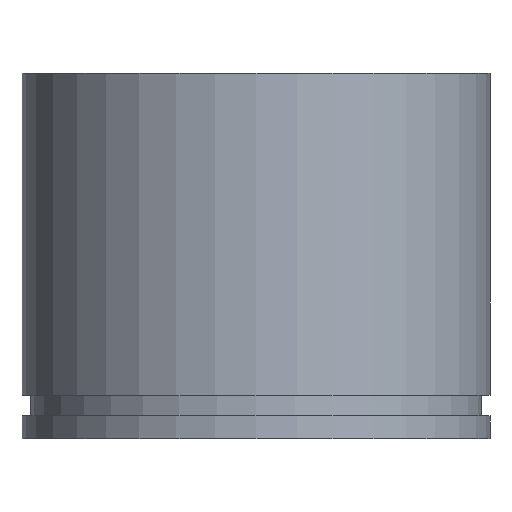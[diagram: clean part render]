
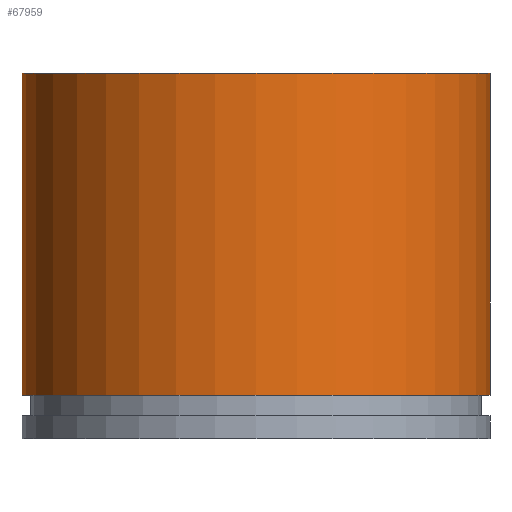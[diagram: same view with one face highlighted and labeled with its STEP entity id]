
A CAD part, front view. The second image highlights one B-rep face of the part: STEP entity #67959.
In plain terms, the highlighted cylindrical face has radius 41 mm (diameter 82 mm), a full revolution.
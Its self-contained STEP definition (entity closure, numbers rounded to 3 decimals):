
#15242 = PLANE('',#15243);
#15243 = AXIS2_PLACEMENT_3D('',#15244,#15245,#15246);
#15244 = CARTESIAN_POINT('',(0.,0.,
    1907.6));
#15245 = DIRECTION('',(0.,0.,1.));
#15246 = DIRECTION('',(1.,0.,-0.));
#36889 = EDGE_CURVE('',#36890,#36890,#36892,.T.);
#36890 = VERTEX_POINT('',#36891);
#36891 = CARTESIAN_POINT('',(41.,0.,1907.6));
#36892 = SURFACE_CURVE('',#36893,(#36898,#36909),.PCURVE_S1.);
#36893 = CIRCLE('',#36894,41.);
#36894 = AXIS2_PLACEMENT_3D('',#36895,#36896,#36897);
#36895 = CARTESIAN_POINT('',(0.,0.,1907.6));
#36896 = DIRECTION('',(0.,0.,-1.));
#36897 = DIRECTION('',(1.,0.,0.));
#36898 = PCURVE('',#15242,#36899);
#36899 = DEFINITIONAL_REPRESENTATION('',(#36900),#36908);
#36900 = ( BOUNDED_CURVE() B_SPLINE_CURVE(2,(#36901,#36902,#36903,#36904
    ,#36905,#36906,#36907),.UNSPECIFIED.,.T.,.F.) 
B_SPLINE_CURVE_WITH_KNOTS((1,2,2,2,2,1),(-2.094,0.,
    2.094,4.189,6.283,8.378),
.UNSPECIFIED.) CURVE() GEOMETRIC_REPRESENTATION_ITEM() 
RATIONAL_B_SPLINE_CURVE((1.,0.5,1.,0.5,1.,0.5,1.)) REPRESENTATION_ITEM(
  '') );
#36901 = CARTESIAN_POINT('',(41.,0.));
#36902 = CARTESIAN_POINT('',(41.,-71.014));
#36903 = CARTESIAN_POINT('',(-20.5,-35.507));
#36904 = CARTESIAN_POINT('',(-82.,0.));
#36905 = CARTESIAN_POINT('',(-20.5,35.507));
#36906 = CARTESIAN_POINT('',(41.,71.014));
#36907 = CARTESIAN_POINT('',(41.,0.));
#36908 = ( GEOMETRIC_REPRESENTATION_CONTEXT(2) 
PARAMETRIC_REPRESENTATION_CONTEXT() REPRESENTATION_CONTEXT('2D SPACE',''
  ) );
#36909 = PCURVE('',#36910,#36915);
#36910 = CYLINDRICAL_SURFACE('',#36911,41.);
#36911 = AXIS2_PLACEMENT_3D('',#36912,#36913,#36914);
#36912 = CARTESIAN_POINT('',(0.,0.,1900.));
#36913 = DIRECTION('',(-0.,-0.,-1.));
#36914 = DIRECTION('',(1.,0.,0.));
#36915 = DEFINITIONAL_REPRESENTATION('',(#36916),#36920);
#36916 = LINE('',#36917,#36918);
#36917 = CARTESIAN_POINT('',(-6.283,-7.6));
#36918 = VECTOR('',#36919,1.);
#36919 = DIRECTION('',(1.,-0.));
#36920 = ( GEOMETRIC_REPRESENTATION_CONTEXT(2) 
PARAMETRIC_REPRESENTATION_CONTEXT() REPRESENTATION_CONTEXT('2D SPACE',''
  ) );
#67959 = ADVANCED_FACE('',(#67960),#36910,.T.);
#67960 = FACE_BOUND('',#67961,.F.);
#67961 = EDGE_LOOP('',(#67962,#67963,#67986,#68013));
#67962 = ORIENTED_EDGE('',*,*,#36889,.T.);
#67963 = ORIENTED_EDGE('',*,*,#67964,.T.);
#67964 = EDGE_CURVE('',#36890,#67965,#67967,.T.);
#67965 = VERTEX_POINT('',#67966);
#67966 = CARTESIAN_POINT('',(41.,0.,1964.));
#67967 = SEAM_CURVE('',#67968,(#67972,#67979),.PCURVE_S1.);
#67968 = LINE('',#67969,#67970);
#67969 = CARTESIAN_POINT('',(41.,0.,1900.));
#67970 = VECTOR('',#67971,1.);
#67971 = DIRECTION('',(0.,0.,1.));
#67972 = PCURVE('',#36910,#67973);
#67973 = DEFINITIONAL_REPRESENTATION('',(#67974),#67978);
#67974 = LINE('',#67975,#67976);
#67975 = CARTESIAN_POINT('',(-6.283,0.));
#67976 = VECTOR('',#67977,1.);
#67977 = DIRECTION('',(-0.,-1.));
#67978 = ( GEOMETRIC_REPRESENTATION_CONTEXT(2) 
PARAMETRIC_REPRESENTATION_CONTEXT() REPRESENTATION_CONTEXT('2D SPACE',''
  ) );
#67979 = PCURVE('',#36910,#67980);
#67980 = DEFINITIONAL_REPRESENTATION('',(#67981),#67985);
#67981 = LINE('',#67982,#67983);
#67982 = CARTESIAN_POINT('',(-0.,0.));
#67983 = VECTOR('',#67984,1.);
#67984 = DIRECTION('',(-0.,-1.));
#67985 = ( GEOMETRIC_REPRESENTATION_CONTEXT(2) 
PARAMETRIC_REPRESENTATION_CONTEXT() REPRESENTATION_CONTEXT('2D SPACE',''
  ) );
#67986 = ORIENTED_EDGE('',*,*,#67987,.T.);
#67987 = EDGE_CURVE('',#67965,#67965,#67988,.T.);
#67988 = SURFACE_CURVE('',#67989,(#67994,#68001),.PCURVE_S1.);
#67989 = CIRCLE('',#67990,41.);
#67990 = AXIS2_PLACEMENT_3D('',#67991,#67992,#67993);
#67991 = CARTESIAN_POINT('',(0.,0.,1964.));
#67992 = DIRECTION('',(0.,0.,1.));
#67993 = DIRECTION('',(1.,0.,0.));
#67994 = PCURVE('',#36910,#67995);
#67995 = DEFINITIONAL_REPRESENTATION('',(#67996),#68000);
#67996 = LINE('',#67997,#67998);
#67997 = CARTESIAN_POINT('',(-0.,-64.));
#67998 = VECTOR('',#67999,1.);
#67999 = DIRECTION('',(-1.,0.));
#68000 = ( GEOMETRIC_REPRESENTATION_CONTEXT(2) 
PARAMETRIC_REPRESENTATION_CONTEXT() REPRESENTATION_CONTEXT('2D SPACE',''
  ) );
#68001 = PCURVE('',#68002,#68007);
#68002 = PLANE('',#68003);
#68003 = AXIS2_PLACEMENT_3D('',#68004,#68005,#68006);
#68004 = CARTESIAN_POINT('',(0.,0.,
    1964.));
#68005 = DIRECTION('',(0.,0.,1.));
#68006 = DIRECTION('',(1.,0.,-0.));
#68007 = DEFINITIONAL_REPRESENTATION('',(#68008),#68012);
#68008 = CIRCLE('',#68009,41.);
#68009 = AXIS2_PLACEMENT_2D('',#68010,#68011);
#68010 = CARTESIAN_POINT('',(0.,0.));
#68011 = DIRECTION('',(1.,0.));
#68012 = ( GEOMETRIC_REPRESENTATION_CONTEXT(2) 
PARAMETRIC_REPRESENTATION_CONTEXT() REPRESENTATION_CONTEXT('2D SPACE',''
  ) );
#68013 = ORIENTED_EDGE('',*,*,#67964,.F.);
